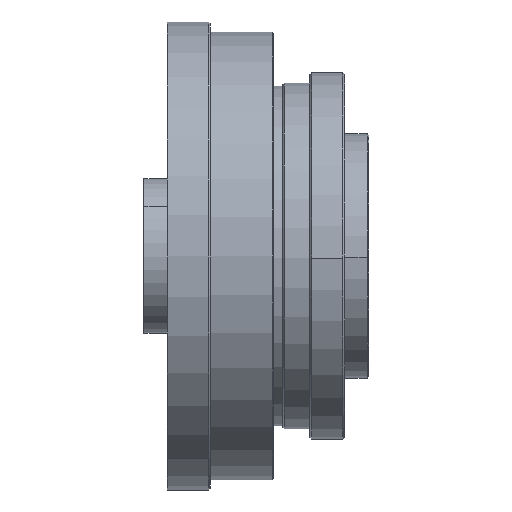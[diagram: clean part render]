
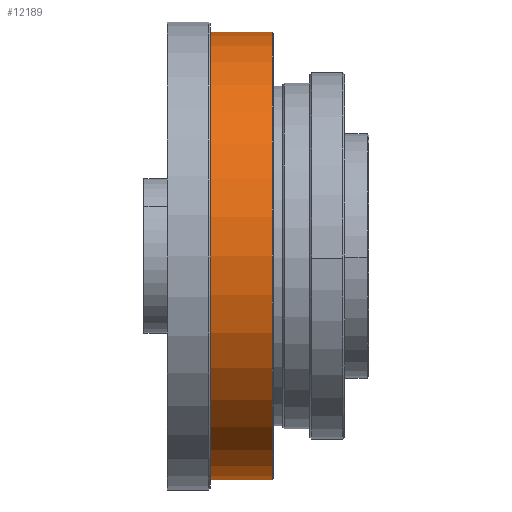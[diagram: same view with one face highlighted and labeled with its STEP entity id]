
A CAD part, front view. The second image highlights one B-rep face of the part: STEP entity #12189.
In plain terms, the highlighted cylindrical face has radius 55 mm (diameter 110 mm), a partial arc.
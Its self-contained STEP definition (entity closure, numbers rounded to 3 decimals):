
#2991 = DIRECTION ( 'NONE',  ( -1., 0., 0. ) ) ;
#4117 = CARTESIAN_POINT ( 'NONE',  ( 0., 0., 55. ) ) ;
#4997 = AXIS2_PLACEMENT_3D ( 'NONE', #13456, #19726, #19999 ) ;
#5581 = EDGE_LOOP ( 'NONE', ( #30650, #28171, #37028, #31998 ) ) ;
#5885 = EDGE_CURVE ( 'NONE', #35663, #38021, #6288, .T. ) ;
#6288 = LINE ( 'NONE', #21995, #13975 ) ;
#6478 = EDGE_CURVE ( 'NONE', #35663, #18012, #15990, .T. ) ;
#7027 = VECTOR ( 'NONE', #23797, 1000. ) ;
#8984 = DIRECTION ( 'NONE',  ( -1., 0., 0. ) ) ;
#9899 = CARTESIAN_POINT ( 'NONE',  ( 18.4, 0., 55. ) ) ;
#12189 = ADVANCED_FACE ( 'NONE', ( #18059 ), #35430, .T. ) ;
#13259 = AXIS2_PLACEMENT_3D ( 'NONE', #33412, #13885, #36743 ) ;
#13456 = CARTESIAN_POINT ( 'NONE',  ( 0., 0., 0. ) ) ;
#13885 = DIRECTION ( 'NONE',  ( 1., 0., 0. ) ) ;
#13975 = VECTOR ( 'NONE', #8984, 1000. ) ;
#15760 = LINE ( 'NONE', #4117, #7027 ) ;
#15990 = CIRCLE ( 'NONE', #25877, 55. ) ;
#18012 = VERTEX_POINT ( 'NONE', #9899 ) ;
#18059 = FACE_OUTER_BOUND ( 'NONE', #5581, .T. ) ;
#19726 = DIRECTION ( 'NONE',  ( -1., 0., 0. ) ) ;
#19999 = DIRECTION ( 'NONE',  ( 0., 0., 1. ) ) ;
#21995 = CARTESIAN_POINT ( 'NONE',  ( 0., 0., -55. ) ) ;
#22520 = CARTESIAN_POINT ( 'NONE',  ( 18.4, 0., 0. ) ) ;
#23797 = DIRECTION ( 'NONE',  ( -1., 0., 0. ) ) ;
#23889 = CARTESIAN_POINT ( 'NONE',  ( 0.3, 0., -55. ) ) ;
#25816 = DIRECTION ( 'NONE',  ( 0., 0., 1. ) ) ;
#25877 = AXIS2_PLACEMENT_3D ( 'NONE', #22520, #2991, #25816 ) ;
#27026 = EDGE_CURVE ( 'NONE', #32929, #38021, #28954, .T. ) ;
#28171 = ORIENTED_EDGE ( 'NONE', *, *, #6478, .T. ) ;
#28954 = CIRCLE ( 'NONE', #13259, 55. ) ;
#30650 = ORIENTED_EDGE ( 'NONE', *, *, #5885, .F. ) ;
#31998 = ORIENTED_EDGE ( 'NONE', *, *, #27026, .T. ) ;
#32096 = CARTESIAN_POINT ( 'NONE',  ( 18.4, 0., -55. ) ) ;
#32929 = VERTEX_POINT ( 'NONE', #40270 ) ;
#33412 = CARTESIAN_POINT ( 'NONE',  ( 0.3, 0., 0. ) ) ;
#35430 = CYLINDRICAL_SURFACE ( 'NONE', #4997, 55. ) ;
#35663 = VERTEX_POINT ( 'NONE', #32096 ) ;
#36743 = DIRECTION ( 'NONE',  ( 0., 0., -1. ) ) ;
#37028 = ORIENTED_EDGE ( 'NONE', *, *, #37450, .T. ) ;
#37450 = EDGE_CURVE ( 'NONE', #18012, #32929, #15760, .T. ) ;
#38021 = VERTEX_POINT ( 'NONE', #23889 ) ;
#40270 = CARTESIAN_POINT ( 'NONE',  ( 0.3, 0., 55. ) ) ;
